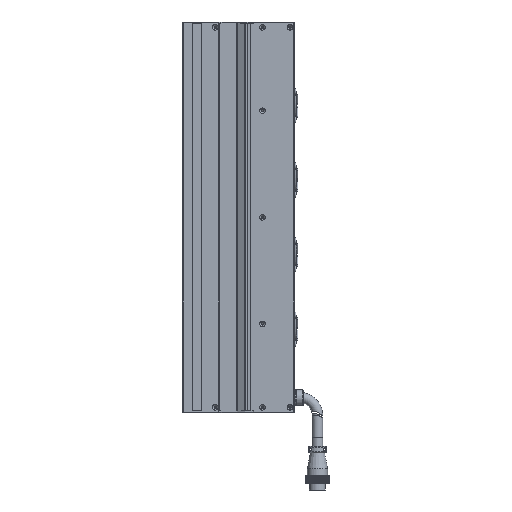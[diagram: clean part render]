
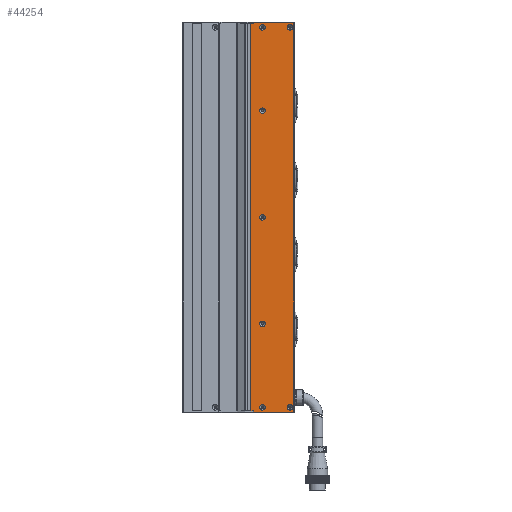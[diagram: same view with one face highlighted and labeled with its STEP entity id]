
A CAD part, left-side view. The second image highlights one B-rep face of the part: STEP entity #44254.
In plain terms, the highlighted planar face has unit normal (-1, 0, 0).
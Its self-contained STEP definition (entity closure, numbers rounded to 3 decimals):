
#1493 = CARTESIAN_POINT ( 'NONE',  ( -24.998, -23.25, -218. ) ) ;
#3371 = ORIENTED_EDGE ( 'NONE', *, *, #28795, .F. ) ;
#3651 = DIRECTION ( 'NONE',  ( 0., -1., 0. ) ) ;
#3802 = EDGE_CURVE ( 'NONE', #67660, #67660, #27191, .T. ) ;
#4994 = DIRECTION ( 'NONE',  ( 0., 0., 1. ) ) ;
#6649 = DIRECTION ( 'NONE',  ( 0., 0., 1. ) ) ;
#6679 = PLANE ( 'NONE',  #94654 ) ;
#7463 = FACE_BOUND ( 'NONE', #30216, .T. ) ;
#7723 = CARTESIAN_POINT ( 'NONE',  ( -24.998, -36.5, 123.15 ) ) ;
#8409 = VERTEX_POINT ( 'NONE', #70905 ) ;
#8452 = CARTESIAN_POINT ( 'NONE',  ( -24.998, -72.5, -219.5 ) ) ;
#8778 = EDGE_CURVE ( 'NONE', #90276, #8409, #26872, .T. ) ;
#8921 = EDGE_CURVE ( 'NONE', #99122, #99122, #56910, .T. ) ;
#10004 = FACE_BOUND ( 'NONE', #36023, .T. ) ;
#11972 = EDGE_CURVE ( 'NONE', #97667, #84391, #62788, .T. ) ;
#12413 = EDGE_CURVE ( 'NONE', #91854, #74102, #50267, .T. ) ;
#14937 = ORIENTED_EDGE ( 'NONE', *, *, #27366, .F. ) ;
#15030 = FACE_BOUND ( 'NONE', #41255, .T. ) ;
#15298 = VERTEX_POINT ( 'NONE', #59516 ) ;
#15654 = ORIENTED_EDGE ( 'NONE', *, *, #69453, .F. ) ;
#16510 = CARTESIAN_POINT ( 'NONE',  ( -24.998, -72.5, -218. ) ) ;
#16518 = DIRECTION ( 'NONE',  ( 0., 1., 0. ) ) ;
#16648 = CIRCLE ( 'NONE', #32156, 3.15 ) ;
#17721 = CIRCLE ( 'NONE', #73135, 3.15 ) ;
#17725 = VECTOR ( 'NONE', #71704, 1000. ) ;
#20878 = ORIENTED_EDGE ( 'NONE', *, *, #28154, .T. ) ;
#21410 = VECTOR ( 'NONE', #97907, 1000. ) ;
#22146 = CARTESIAN_POINT ( 'NONE',  ( -24.998, -36.5, -214. ) ) ;
#22311 = CARTESIAN_POINT ( 'NONE',  ( -24.998, -23.25, -218. ) ) ;
#23095 = ORIENTED_EDGE ( 'NONE', *, *, #8921, .F. ) ;
#23678 = EDGE_LOOP ( 'NONE', ( #14937 ) ) ;
#23722 = CARTESIAN_POINT ( 'NONE',  ( -24.998, -26.5, 211. ) ) ;
#23764 = AXIS2_PLACEMENT_3D ( 'NONE', #43638, #51706, #60060 ) ;
#26872 = LINE ( 'NONE', #46080, #65618 ) ;
#26971 = DIRECTION ( 'NONE',  ( 0., 0., 1. ) ) ;
#27191 = CIRCLE ( 'NONE', #95604, 3.15 ) ;
#27366 = EDGE_CURVE ( 'NONE', #83843, #83843, #16648, .T. ) ;
#28154 = EDGE_CURVE ( 'NONE', #75544, #15298, #46800, .T. ) ;
#28795 = EDGE_CURVE ( 'NONE', #74102, #84391, #35444, .T. ) ;
#28824 = CARTESIAN_POINT ( 'NONE',  ( -24.998, -67.5, 214. ) ) ;
#29366 = EDGE_LOOP ( 'NONE', ( #72130 ) ) ;
#30105 = EDGE_LOOP ( 'NONE', ( #63038, #50234, #33618, #20878, #62452, #65575, #3371, #74275 ) ) ;
#30216 = EDGE_LOOP ( 'NONE', ( #23095 ) ) ;
#30457 = DIRECTION ( 'NONE',  ( -1., 0., 0. ) ) ;
#31321 = EDGE_CURVE ( 'NONE', #91854, #8409, #91641, .T. ) ;
#31752 = LINE ( 'NONE', #8452, #55605 ) ;
#32156 = AXIS2_PLACEMENT_3D ( 'NONE', #82757, #34801, #90877 ) ;
#33031 = VECTOR ( 'NONE', #26971, 1000. ) ;
#33618 = ORIENTED_EDGE ( 'NONE', *, *, #92702, .F. ) ;
#33965 = DIRECTION ( 'NONE',  ( -1., 0., 0. ) ) ;
#34571 = CIRCLE ( 'NONE', #23764, 3.15 ) ;
#34801 = DIRECTION ( 'NONE',  ( -1., 0., 0. ) ) ;
#35444 = LINE ( 'NONE', #67737, #89317 ) ;
#36023 = EDGE_LOOP ( 'NONE', ( #15654 ) ) ;
#36180 = AXIS2_PLACEMENT_3D ( 'NONE', #28824, #76103, #4994 ) ;
#37350 = VERTEX_POINT ( 'NONE', #96686 ) ;
#37508 = FACE_BOUND ( 'NONE', #43786, .T. ) ;
#37745 = VECTOR ( 'NONE', #39623, 1000. ) ;
#37849 = CARTESIAN_POINT ( 'NONE',  ( -24.998, -36.5, 0. ) ) ;
#39623 = DIRECTION ( 'NONE',  ( 0., -1., 0. ) ) ;
#40205 = CARTESIAN_POINT ( 'NONE',  ( -24.998, -26.5, 218. ) ) ;
#41255 = EDGE_LOOP ( 'NONE', ( #71301 ) ) ;
#43638 = CARTESIAN_POINT ( 'NONE',  ( -24.998, -36.5, 214. ) ) ;
#43786 = EDGE_LOOP ( 'NONE', ( #87280 ) ) ;
#44254 = ADVANCED_FACE ( 'NONE', ( #37508, #10004, #101522, #15030, #52589, #50089, #7463, #104052 ), #6679, .F. ) ;
#45275 = DIRECTION ( 'NONE',  ( -1., 0., 0. ) ) ;
#46080 = CARTESIAN_POINT ( 'NONE',  ( -24.998, -26.5, -211. ) ) ;
#46800 = LINE ( 'NONE', #72177, #33031 ) ;
#46944 = DIRECTION ( 'NONE',  ( 0., 0., -1. ) ) ;
#50089 = FACE_BOUND ( 'NONE', #29366, .T. ) ;
#50234 = ORIENTED_EDGE ( 'NONE', *, *, #8778, .F. ) ;
#50267 = LINE ( 'NONE', #1493, #21410 ) ;
#51706 = DIRECTION ( 'NONE',  ( -1., 0., 0. ) ) ;
#52341 = VERTEX_POINT ( 'NONE', #88214 ) ;
#52589 = FACE_BOUND ( 'NONE', #91354, .T. ) ;
#53244 = DIRECTION ( 'NONE',  ( 0., 1., 0. ) ) ;
#53488 = CIRCLE ( 'NONE', #88343, 3.15 ) ;
#54997 = CARTESIAN_POINT ( 'NONE',  ( -24.998, -72.5, 218. ) ) ;
#55605 = VECTOR ( 'NONE', #16518, 1000. ) ;
#56910 = CIRCLE ( 'NONE', #69534, 3.15 ) ;
#57775 = DIRECTION ( 'NONE',  ( 0., 0., 1. ) ) ;
#58227 = ORIENTED_EDGE ( 'NONE', *, *, #3802, .F. ) ;
#58871 = EDGE_CURVE ( 'NONE', #95199, #95199, #53488, .T. ) ;
#59516 = CARTESIAN_POINT ( 'NONE',  ( -24.998, -72., 219.5 ) ) ;
#60060 = DIRECTION ( 'NONE',  ( 0., 0., 1. ) ) ;
#61775 = EDGE_CURVE ( 'NONE', #15298, #97667, #95899, .T. ) ;
#62292 = DIRECTION ( 'NONE',  ( 0., 0., 1. ) ) ;
#62452 = ORIENTED_EDGE ( 'NONE', *, *, #61775, .T. ) ;
#62788 = LINE ( 'NONE', #23722, #17725 ) ;
#63038 = ORIENTED_EDGE ( 'NONE', *, *, #31321, .T. ) ;
#65575 = ORIENTED_EDGE ( 'NONE', *, *, #11972, .T. ) ;
#65618 = VECTOR ( 'NONE', #102224, 1000. ) ;
#66346 = CARTESIAN_POINT ( 'NONE',  ( -24.998, -26.5, 219.5 ) ) ;
#66852 = CARTESIAN_POINT ( 'NONE',  ( -24.998, -72., -219.5 ) ) ;
#67660 = VERTEX_POINT ( 'NONE', #7723 ) ;
#67737 = CARTESIAN_POINT ( 'NONE',  ( -24.998, -72.5, 218. ) ) ;
#69453 = EDGE_CURVE ( 'NONE', #37350, #37350, #34571, .T. ) ;
#69534 = AXIS2_PLACEMENT_3D ( 'NONE', #22146, #45275, #78873 ) ;
#70905 = CARTESIAN_POINT ( 'NONE',  ( -24.998, -26.5, -218. ) ) ;
#71301 = ORIENTED_EDGE ( 'NONE', *, *, #78275, .F. ) ;
#71381 = CARTESIAN_POINT ( 'NONE',  ( -24.998, -67.5, -210.85 ) ) ;
#71704 = DIRECTION ( 'NONE',  ( 0., 0., -1. ) ) ;
#72130 = ORIENTED_EDGE ( 'NONE', *, *, #58871, .F. ) ;
#72177 = CARTESIAN_POINT ( 'NONE',  ( -24.998, -72., 218. ) ) ;
#73135 = AXIS2_PLACEMENT_3D ( 'NONE', #37849, #93905, #62292 ) ;
#74102 = VERTEX_POINT ( 'NONE', #95180 ) ;
#74275 = ORIENTED_EDGE ( 'NONE', *, *, #12413, .F. ) ;
#74526 = VECTOR ( 'NONE', #53244, 1000. ) ;
#75544 = VERTEX_POINT ( 'NONE', #66852 ) ;
#76103 = DIRECTION ( 'NONE',  ( -1., 0., 0. ) ) ;
#76558 = EDGE_CURVE ( 'NONE', #52341, #52341, #77076, .T. ) ;
#77076 = CIRCLE ( 'NONE', #36180, 3.15 ) ;
#78275 = EDGE_CURVE ( 'NONE', #88733, #88733, #17721, .T. ) ;
#78438 = CARTESIAN_POINT ( 'NONE',  ( -24.998, -36.5, 120. ) ) ;
#78873 = DIRECTION ( 'NONE',  ( 0., 0., 1. ) ) ;
#82757 = CARTESIAN_POINT ( 'NONE',  ( -24.998, -36.5, -120. ) ) ;
#83843 = VERTEX_POINT ( 'NONE', #85406 ) ;
#84391 = VERTEX_POINT ( 'NONE', #40205 ) ;
#85406 = CARTESIAN_POINT ( 'NONE',  ( -24.998, -36.5, -116.85 ) ) ;
#85804 = DIRECTION ( 'NONE',  ( 1., 0., 0. ) ) ;
#87280 = ORIENTED_EDGE ( 'NONE', *, *, #76558, .F. ) ;
#88214 = CARTESIAN_POINT ( 'NONE',  ( -24.998, -67.5, 217.15 ) ) ;
#88343 = AXIS2_PLACEMENT_3D ( 'NONE', #97450, #33965, #57775 ) ;
#88733 = VERTEX_POINT ( 'NONE', #89952 ) ;
#89317 = VECTOR ( 'NONE', #3651, 1000. ) ;
#89952 = CARTESIAN_POINT ( 'NONE',  ( -24.998, -36.5, 3.15 ) ) ;
#90276 = VERTEX_POINT ( 'NONE', #96388 ) ;
#90721 = CARTESIAN_POINT ( 'NONE',  ( -24.998, -36.5, -210.85 ) ) ;
#90877 = DIRECTION ( 'NONE',  ( 0., 0., 1. ) ) ;
#91354 = EDGE_LOOP ( 'NONE', ( #58227 ) ) ;
#91641 = LINE ( 'NONE', #16510, #37745 ) ;
#91854 = VERTEX_POINT ( 'NONE', #22311 ) ;
#92702 = EDGE_CURVE ( 'NONE', #75544, #90276, #31752, .T. ) ;
#93555 = CARTESIAN_POINT ( 'NONE',  ( -24.998, -72.5, 219.5 ) ) ;
#93905 = DIRECTION ( 'NONE',  ( -1., 0., 0. ) ) ;
#94654 = AXIS2_PLACEMENT_3D ( 'NONE', #54997, #85804, #46944 ) ;
#95180 = CARTESIAN_POINT ( 'NONE',  ( -24.998, -23.25, 218. ) ) ;
#95199 = VERTEX_POINT ( 'NONE', #71381 ) ;
#95604 = AXIS2_PLACEMENT_3D ( 'NONE', #78438, #30457, #6649 ) ;
#95899 = LINE ( 'NONE', #93555, #74526 ) ;
#96388 = CARTESIAN_POINT ( 'NONE',  ( -24.998, -26.5, -219.5 ) ) ;
#96686 = CARTESIAN_POINT ( 'NONE',  ( -24.998, -36.5, 217.15 ) ) ;
#97450 = CARTESIAN_POINT ( 'NONE',  ( -24.998, -67.5, -214. ) ) ;
#97667 = VERTEX_POINT ( 'NONE', #66346 ) ;
#97907 = DIRECTION ( 'NONE',  ( 0., 0., 1. ) ) ;
#99122 = VERTEX_POINT ( 'NONE', #90721 ) ;
#101522 = FACE_BOUND ( 'NONE', #23678, .T. ) ;
#102224 = DIRECTION ( 'NONE',  ( 0., 0., 1. ) ) ;
#104052 = FACE_OUTER_BOUND ( 'NONE', #30105, .T. ) ;
